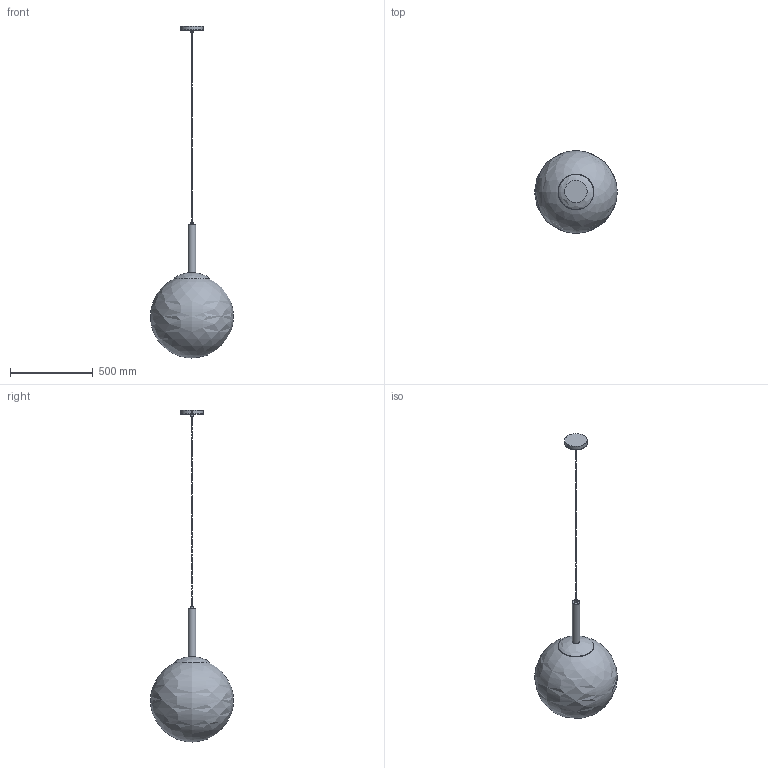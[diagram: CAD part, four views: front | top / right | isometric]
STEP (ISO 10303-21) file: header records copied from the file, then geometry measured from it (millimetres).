
FILE_DESCRIPTION ((), '1');
FILE_NAME ('C:\Users\MiCHAL\Desktop\ALDEX - Modele 3D 17.08.2022\1087XXL1\1087XXL1\1087XXL1.stp', '2022-09-20T03:02:24', ('Unknown'), ('Unknown'), 'HarmonyWare STEP v2.1.4', 'HarmonyWare Translators', '');
FILE_SCHEMA (('CONFIG_CONTROL_DESIGN'));
Length unit declared in the file: centimetre
Assembly tree (11 placements, depth 2):
  (unnamed)
    (unnamed)
    (unnamed)
    (unnamed)
    (unnamed)
    (unnamed)
    (unnamed)
    (unnamed)
    (unnamed)
    (unnamed)
    (unnamed)
    (unnamed)
Bounding box: 499.55 x 500 x 2000 mm (x, y, z)
Volume: 67054750.8 mm3; surface area: 967568.9 mm2
Topology: 11 solids, 11 shells, 42 faces, 65 edges, 46 vertices
Faces by surface type: bspline 42
Entity records: 4538 total; most frequent: CARTESIAN_POINT 2456, PERSON 118, ORGANIZATION 118, PERSON_AND_ORGANIZATION 118, ORIENTED_EDGE 108, CALENDAR_DATE 82, COORDINATED_UNIVERSAL_TIME_OFFSET 82, LOCAL_TIME 82
